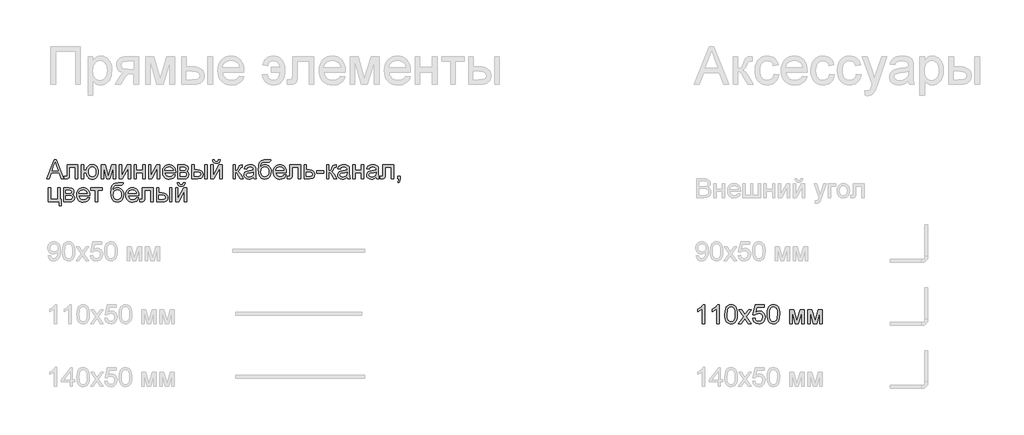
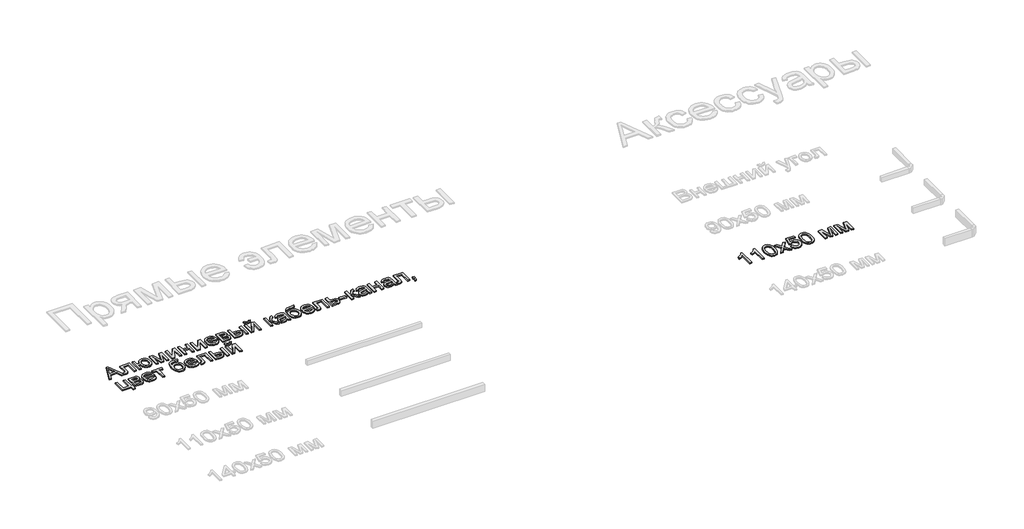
# One storey, part 89 of 168: 2 proxies.
"""IFC4 building model written with IfcOpenShell, lengths in millimetres."""

from ifc_helpers import new_model, si_unit, origin, origin_with_axes, place, context, project, spatial, polyline, outline, extrude, element, save

model = new_model("IFC4")

# Units and contexts
model_context = context("Model", 3, world=origin())
ifc_project = project(units=[si_unit("LENGTHUNIT", "METRE", prefix="MILLI")], contexts=[model_context])

# Site, building, storey
site = spatial("IfcSite", under=ifc_project)
building = spatial("IfcBuilding", under=site)
storey = spatial("IfcBuildingStorey", under=building, Name="Этаж 01", Elevation=0.0)

# Proxies
placement = place(None, origin())
element("IfcBuildingElementProxy", 1, Name="300 мм Arial 2", ObjectType="300 мм Arial 2", at=placement, inside=storey, context=model_context, shape_type="SweptSolid", body=[
    extrude(outline(polyline([(743.7217892, -6848.4056816), (864.0192016, -6547.0367511), (896.0985116, -6547.0367511), (1016.395924, -6848.4056816), (976.5910922, -6848.4056816), (942.083761, -6754.2278908), (817.9603758, -6754.2278908), (783.5266211, -6848.4056816), (743.7217892, -6848.4056816)]), holes=[polyline([(831.7927389, -6716.5567745), (928.3249744, -6716.5567745), (901.1752832, -6642.4653407), (880.0588566, -6584.7078674), (861.2968749, -6635.9906176), (831.7927389, -6716.5567745)])]), origin_with_axes(), (0.0, 0.0, 1.0), 20.0),
    extrude(outline(polyline([(1070.7688829, -6627.0878733), (1240.2889063, -6627.0878733), (1240.2889063, -6848.1849524), (1202.61779, -6848.1849524), (1202.61779, -6664.7589896), (1108.4399992, -6664.7589896), (1108.4399992, -6770.3411222), (1105.9016135, -6819.0486984), (1101.1467387, -6830.0759612), (1091.9588859, -6839.6133019), (1078.0161582, -6846.2075866), (1058.9966591, -6848.4056816), (1028.3888771, -6846.4926952), (1028.3888771, -6810.7345653), (1045.2378725, -6810.7345653), (1062.2708088, -6808.4169087), (1069.0766258, -6801.0592688), (1070.7688829, -6768.2074066), (1070.7688829, -6627.0878733)])), origin_with_axes(), (0.0, 0.0, 1.0), 20.0),
    extrude(outline(polyline([(1296.7955808, -6627.0878733), (1334.4666971, -6627.0878733), (1334.4666971, -6711.847885), (1376.8467029, -6711.847885), (1386.6231669, -6673.4410047), (1395.1465329, -6658.1003255), (1406.0933215, -6645.3348202), (1419.1554316, -6635.2916418), (1434.024762, -6628.1179429), (1469.1850837, -6622.3789837), (1498.735205, -6625.754301), (1521.3139624, -6635.880253), (1538.7331749, -6651.929105), (1552.8046612, -6673.0731227), (1562.1028786, -6700.8850015), (1565.2022845, -6736.937437), (1563.5996985, -6763.7928227), (1558.7919407, -6787.1901176), (1550.779011, -6807.1293217), (1539.5609094, -6823.6104351), (1525.5974884, -6836.5184946), (1509.3486005, -6845.7385371), (1490.8142458, -6851.2705626), (1469.9944241, -6853.1145711), (1450.5909481, -6851.3855257), (1433.2154216, -6846.1983896), (1417.8678446, -6837.5531627), (1404.5482172, -6825.4498451), (1393.587633, -6810.3298951), (1385.3171859, -6792.6347711), (1376.8467029, -6749.5190013), (1334.4666971, -6749.5190013), (1334.4666971, -6848.4056816), (1296.7955808, -6848.4056816), (1296.7955808, -6627.0878733)]), holes=[polyline([(1471.6131049, -6660.0501), (1447.5996076, -6664.9245365), (1429.5641928, -6679.5478458), (1418.2794126, -6702.9635348), (1414.5178192, -6734.2151103), (1418.3070038, -6770.6262307), (1429.6745574, -6795.8353445), (1447.3880755, -6810.5414272), (1470.2151533, -6815.4434548), (1493.1066104, -6810.9093092), (1511.454725, -6797.3068724), (1523.5120573, -6773.6060749), (1527.5311681, -6738.776847), (1524.0546833, -6704.3338952), (1513.6252287, -6679.7317868), (1496.1692281, -6664.9705217), (1471.6131049, -6660.0501)])]), origin_with_axes(), (0.0, 0.0, 1.0), 20.0),
    extrude(outline(polyline([(1612.2911798, -6627.0878733), (1677.1119874, -6627.0878733), (1727.0703623, -6804.2598421), (1780.9282864, -6627.0878733), (1843.0267672, -6627.0878733), (1843.0267672, -6848.4056816), (1805.3556509, -6848.4056816), (1805.3556509, -6670.2036431), (1751.2034212, -6848.4056816), (1701.7600811, -6848.4056816), (1649.9622961, -6661.6687808), (1649.9622961, -6848.4056816), (1612.2911798, -6848.4056816), (1612.2911798, -6627.0878733)])), origin_with_axes(), (0.0, 0.0, 1.0), 20.0),
    extrude(outline(polyline([(1899.5334417, -6627.0878733), (1937.204558, -6627.0878733), (1937.204558, -6795.8721327), (2029.763668, -6627.0878733), (2078.4712441, -6627.0878733), (2078.4712441, -6848.4056816), (2040.8001278, -6848.4056816), (2040.8001278, -6680.6514918), (1948.829629, -6848.4056816), (1899.5334417, -6848.4056816), (1899.5334417, -6627.0878733)])), origin_with_axes(), (0.0, 0.0, 1.0), 20.0),
    extrude(outline(polyline([(2134.9779186, -6627.0878733), (2172.6490349, -6627.0878733), (2172.6490349, -6711.847885), (2271.5357152, -6711.847885), (2271.5357152, -6627.0878733), (2309.2068315, -6627.0878733), (2309.2068315, -6848.4056816), (2271.5357152, -6848.4056816), (2271.5357152, -6749.5190013), (2172.6490349, -6749.5190013), (2172.6490349, -6848.4056816), (2134.9779186, -6848.4056816), (2134.9779186, -6627.0878733)])), origin_with_axes(), (0.0, 0.0, 1.0), 20.0),
    extrude(outline(polyline([(2365.713506, -6627.0878733), (2403.3846223, -6627.0878733), (2403.3846223, -6795.8721327), (2495.9437322, -6627.0878733), (2544.6513084, -6627.0878733), (2544.6513084, -6848.4056816), (2506.9801921, -6848.4056816), (2506.9801921, -6680.6514918), (2415.0096933, -6848.4056816), (2365.713506, -6848.4056816), (2365.713506, -6627.0878733)])), origin_with_axes(), (0.0, 0.0, 1.0), 20.0),
    extrude(outline(polyline([(2756.1098792, -6782.481228), (2793.0452316, -6787.1901176), (2779.7371004, -6815.0203905), (2758.5011122, -6835.8241173), (2729.8155136, -6848.7919577), (2694.1585513, -6853.1145711), (2670.784249, -6851.2498692), (2649.9575295, -6845.6557637), (2631.6783929, -6836.3322543), (2615.9468391, -6823.2793413), (2603.296297, -6806.860308), (2594.2601955, -6787.4384379), (2588.8385346, -6765.013731), (2587.0313143, -6739.5861874), (2588.8569287, -6713.2964203), (2594.3337719, -6690.1244531), (2603.4618439, -6670.0702859), (2616.2411447, -6653.1339185), (2631.9313118, -6639.6786346), (2649.7919826, -6630.0677174), (2669.8231573, -6624.3011672), (2692.0248357, -6622.3789837), (2713.5114435, -6624.2965686), (2732.9425106, -6630.0493233), (2750.3180371, -6639.6372478), (2765.6380229, -6653.0603421), (2778.1437115, -6669.9599213), (2787.0763462, -6689.9773003), (2792.435927, -6713.1124793), (2794.2224539, -6739.3654582), (2794.0017247, -6749.5190013), (2624.7024306, -6749.5190013), (2631.2231389, -6777.7171562), (2646.3706801, -6798.4473066), (2668.2320676, -6811.1944178), (2694.8943152, -6815.4434548), (2714.943884, -6813.4752861), (2731.8296676, -6807.5707801), (2745.551666, -6797.3620547), (2756.1098792, -6782.481228)]), holes=[polyline([(2624.7024306, -6711.847885), (2756.5513376, -6711.847885), (2751.456172, -6691.945469), (2741.4681758, -6677.7084358), (2719.5056207, -6664.464684), (2691.8776829, -6660.0501), (2666.4846282, -6663.5725701), (2645.4877633, -6674.1399805), (2630.8920451, -6690.6118968), (2624.7024306, -6711.847885)])]), origin_with_axes(), (0.0, 0.0, 1.0), 20.0),
    extrude(outline(polyline([(2831.8935702, -6627.0878733), (2914.8877484, -6627.0878733), (2941.5683901, -6628.3478691), (2960.3947512, -6632.1278566), (2974.2455083, -6639.2647673), (2985.999338, -6650.5955328), (2994.0283626, -6665.3567978), (2996.7047041, -6682.7852073), (2995.0860233, -6696.8291025), (2990.229981, -6708.9416172), (2982.118183, -6719.1779337), (2970.7322352, -6727.5932344), (2984.6749628, -6735.4199238), (2996.0425165, -6748.0106851), (3003.6024915, -6764.3722368), (3006.1224832, -6783.5112976), (2999.7397305, -6812.2244873), (2984.5645982, -6832.439603), (2960.541904, -6844.4141619), (2927.6164654, -6848.4056816), (2831.8935702, -6848.4056816), (2831.8935702, -6627.0878733)]), holes=[polyline([(2869.5646866, -6711.847885), (2906.7943445, -6711.847885), (2937.5124911, -6709.9348986), (2952.4485001, -6702.2829531), (2957.3873158, -6695.9553828), (2959.0335878, -6688.4505901), (2956.1457141, -6677.2117951), (2947.4820931, -6669.9829139), (2931.8287142, -6666.0649707), (2907.9715668, -6664.7589896), (2869.5646866, -6664.7589896), (2869.5646866, -6711.847885)]), polyline([(2869.5646866, -6810.7345653), (2915.7706651, -6810.7345653), (2940.9521877, -6809.033111), (2956.7527194, -6803.9287484), (2965.2323994, -6794.648925), (2968.4513669, -6780.4210889), (2966.8418831, -6770.9941127), (2962.0134319, -6762.2845065), (2954.6006097, -6755.4694925), (2945.238013, -6751.7262932), (2912.0918452, -6749.5190013), (2869.5646866, -6749.5190013), (2869.5646866, -6810.7345653)])]), origin_with_axes(), (0.0, 0.0, 1.0), 20.0),
    extrude(outline(polyline([(3260.4025182, -6627.0878733), (3298.0736345, -6627.0878733), (3298.0736345, -6848.4056816), (3260.4025182, -6848.4056816), (3260.4025182, -6627.0878733)])), origin_with_axes(), (0.0, 0.0, 1.0), 20.0),
    extrude(outline(polyline([(3053.2113785, -6627.0878733), (3090.8824948, -6627.0878733), (3090.8824948, -6707.1389954), (3137.4563554, -6707.1389954), (3177.7118428, -6711.857082), (3193.928541, -6717.7546902), (3207.5378755, -6726.0113418), (3218.3053217, -6736.3419281), (3225.9963546, -6748.4613405), (3230.6109744, -6762.3695792), (3232.149181, -6778.0666441), (3226.989636, -6805.0231973), (3211.5110011, -6827.7675016), (3199.649106, -6836.7967054), (3184.7016007, -6843.2461366), (3145.5497593, -6848.4056816), (3053.2113785, -6848.4056816), (3053.2113785, -6627.0878733)]), holes=[polyline([(3090.8824948, -6810.7345653), (3129.5836807, -6810.7345653), (3159.5844574, -6808.7571995), (3179.5420557, -6802.8251024), (3190.7440624, -6792.6991504), (3194.4780647, -6778.1402205), (3191.7097527, -6765.8345678), (3183.4048166, -6754.9636548), (3165.6453133, -6747.3484975), (3134.5132995, -6744.8101117), (3090.8824948, -6744.8101117), (3090.8824948, -6810.7345653)])]), origin_with_axes(), (0.0, 0.0, 1.0), 20.0),
    extrude(outline(polyline([(3354.580309, -6627.0878733), (3392.2514253, -6627.0878733), (3392.2514253, -6795.8721327), (3484.8105353, -6627.0878733), (3533.5181114, -6627.0878733), (3533.5181114, -6848.4056816), (3495.8469951, -6848.4056816), (3495.8469951, -6680.6514918), (3403.8764963, -6848.4056816), (3354.580309, -6848.4056816), (3354.580309, -6627.0878733)])), origin_with_axes(), (0.0, 0.0, 1.0), 20.0),
    extrude(outline(polyline([(3477.011437, -6547.0367511), (3505.2647742, -6547.0367511), (3499.1855242, -6571.160613), (3486.9810391, -6588.9385104), (3469.2031416, -6599.8921968), (3446.403655, -6603.5434256), (3421.6635908, -6599.9197879), (3402.4785448, -6589.048875), (3389.3635516, -6571.2985687), (3382.8336462, -6547.0367511), (3411.0869835, -6547.0367511), (3415.060109, -6559.4435714), (3421.6819849, -6568.2635422), (3430.9893994, -6573.5334518), (3443.0191406, -6575.2900883), (3456.5939863, -6573.5886341), (3466.4164355, -6568.4842714), (3473.0383114, -6559.7194829), (3477.011437, -6547.0367511)])), origin_with_axes(), (0.0, 0.0, 1.0), 20.0),
    extrude(outline(polyline([(3707.7470244, -6627.0878733), (3745.4181407, -6627.0878733), (3745.4181407, -6721.265664), (3760.7404258, -6719.5734069), (3770.6548455, -6714.4966353), (3779.4288311, -6701.2528835), (3791.3298137, -6675.0596854), (3808.5099028, -6641.0306009), (3823.666641, -6629.9573528), (3851.2210025, -6627.0878733), (3858.4314896, -6627.0878733), (3858.4314896, -6664.9797188), (3848.2779465, -6664.7589896), (3829.8838468, -6668.7321151), (3816.9344005, -6693.5273616), (3801.7408741, -6720.345959), (3780.4405066, -6733.4793463), (3792.3782774, -6738.7814455), (3804.2056835, -6748.1394438), (3827.529402, -6779.0231373), (3867.8492687, -6848.4056816), (3825.0278044, -6848.4056816), (3785.5172781, -6780.4946653), (3765.6516504, -6751.7630814), (3756.36263, -6746.5483542), (3745.4181407, -6744.8101117), (3745.4181407, -6848.4056816), (3707.7470244, -6848.4056816), (3707.7470244, -6627.0878733)])), origin_with_axes(), (0.0, 0.0, 1.0), 20.0),
    extrude(outline(polyline([(4032.6604025, -6820.1523443), (4014.6617759, -6835.584994), (3996.1297204, -6845.6833548), (3976.6411717, -6851.256767), (3955.7730655, -6853.1145711), (3924.2915638, -6848.6448049), (3901.0690128, -6835.2355061), (3886.7492062, -6814.8732377), (3881.9759373, -6789.5445623), (3883.7785591, -6773.9279716), (3889.1864244, -6759.7461207), (3897.5281486, -6747.6060149), (3908.1323471, -6738.1146594), (3934.5094862, -6725.7538244), (3967.103831, -6720.0884417), (4005.6210759, -6714.1287533), (4032.4396733, -6707.1389954), (4032.6604025, -6698.7512859), (4030.0668344, -6681.9390788), (4022.2861302, -6670.9394071), (4004.8853119, -6662.7724268), (3980.6418884, -6660.0501), (3958.2010867, -6661.8619189), (3942.5293137, -6667.2973753), (3931.8423417, -6677.3497509), (3924.3559431, -6693.0123268), (3886.6848268, -6688.3034373), (3893.2239293, -6667.7020455), (3902.9819992, -6651.5152378), (3916.8695445, -6639.1360086), (3935.7970732, -6629.9573528), (3958.9460477, -6624.273576), (3985.4979307, -6622.3789837), (4010.9645618, -6624.0528468), (4031.1520863, -6629.074436), (4046.3732039, -6636.625214), (4056.9406142, -6645.8866432), (4063.9487662, -6657.3369703), (4068.4921088, -6671.4544419), (4070.3315188, -6704.4166687), (4070.3315188, -6751.2848348), (4072.2445052, -6816.7310418), (4079.7492979, -6848.4056816), (4042.0781816, -6848.4056816), (4032.6604025, -6820.1523443)]), holes=[polyline([(4032.6604025, -6744.8101117), (3971.8862969, -6756.3616064), (3939.4758931, -6762.4684475), (3924.7974015, -6772.4012614), (3919.6470536, -6786.895812), (3922.4521538, -6798.0978187), (3930.8674544, -6807.2764745), (3944.7090145, -6813.4017097), (3963.792893, -6815.4434548), (3984.0264027, -6813.1901776), (4001.9054677, -6806.4303459), (4016.4000183, -6796.4699409), (4026.479985, -6784.6149436), (4030.9497512, -6772.4012614), (4032.4396733, -6755.4786896), (4032.6604025, -6744.8101117)])]), origin_with_axes(), (0.0, 0.0, 1.0), 20.0),
    extrude(outline(polyline([(4277.5226585, -6542.3278616), (4310.4848853, -6542.3278616), (4306.9164299, -6560.2345177), (4300.7728006, -6571.721633), (4292.2563324, -6578.5182529), (4281.5693604, -6582.3534227), (4235.4369582, -6584.7078674), (4197.1312455, -6586.8783712), (4173.3016893, -6593.3898825), (4159.0462619, -6604.6838598), (4149.462936, -6621.2017613), (4143.8251444, -6643.072346), (4141.4063203, -6670.4243723), (4156.5538614, -6649.3815222), (4174.0374532, -6634.3719368), (4193.8754898, -6625.377222), (4216.0863653, -6622.3789837), (4236.6095821, -6624.2850723), (4255.2841919, -6630.0033381), (4272.1101946, -6639.533781), (4287.0875904, -6652.8764011), (4299.3840461, -6669.4701784), (4308.1672287, -6688.7540927), (4313.4371383, -6710.7281441), (4315.1937748, -6735.3923327), (4311.7080929, -6771.3527977), (4301.2510472, -6800.2131402), (4286.0115355, -6822.6447449), (4268.1784558, -6839.3189963), (4245.5905013, -6849.6656774), (4216.0863653, -6853.1145711), (4182.0848719, -6848.672396), (4156.5998467, -6835.3458707), (4137.847062, -6815.0939669), (4124.0422901, -6789.8756561), (4115.544216, -6751.9010372), (4112.7115247, -6693.3802088), (4114.4980516, -6653.7156319), (4119.8576324, -6621.1005938), (4128.7902671, -6595.5350944), (4141.2959557, -6577.0191337), (4157.5080554, -6563.9018413), (4177.5599234, -6554.5323468), (4201.4515597, -6548.91065), (4229.1829643, -6547.0367511), (4271.1215118, -6546.1906225), (4277.5226585, -6542.3278616)]), holes=[polyline([(4277.5226585, -6734.2151103), (4273.4391683, -6704.5730185), (4261.1886979, -6680.8354328), (4241.5070112, -6665.2464332), (4215.1298721, -6660.0501), (4187.630693, -6665.5407388), (4176.5436493, -6672.4040373), (4167.2316363, -6682.0126552), (4154.5948898, -6707.6632273), (4150.382641, -6740.6898334), (4155.0363482, -6772.704764), (4168.9974699, -6796.2032265), (4189.7828026, -6810.6333977), (4214.9091429, -6815.4434548), (4240.1642419, -6809.8792396), (4260.1586283, -6793.1865941), (4273.1816509, -6767.3152928), (4277.5226585, -6734.2151103)])]), origin_with_axes(), (0.0, 0.0, 1.0), 20.0),
    extrude(outline(polyline([(4517.2345665, -6782.481228), (4554.1699189, -6787.1901176), (4540.8617877, -6815.0203905), (4519.6257995, -6835.8241173), (4490.9402009, -6848.7919577), (4455.2832386, -6853.1145711), (4431.9089363, -6851.2498692), (4411.0822168, -6845.6557637), (4392.8030802, -6836.3322543), (4377.0715264, -6823.2793413), (4364.4209843, -6806.860308), (4355.3848828, -6787.4384379), (4349.9632219, -6765.013731), (4348.1560016, -6739.5861874), (4349.981616, -6713.2964203), (4355.4584592, -6690.1244531), (4364.5865312, -6670.0702859), (4377.365832, -6653.1339185), (4393.0559991, -6639.6786346), (4410.9166699, -6630.0677174), (4430.9478446, -6624.3011672), (4453.149523, -6622.3789837), (4474.6361308, -6624.2965686), (4494.0671979, -6630.0493233), (4511.4427244, -6639.6372478), (4526.7627102, -6653.0603421), (4539.2683988, -6669.9599213), (4548.2010335, -6689.9773003), (4553.5606143, -6713.1124793), (4555.3471412, -6739.3654582), (4555.1264121, -6749.5190013), (4385.8271179, -6749.5190013), (4392.3478262, -6777.7171562), (4407.4953674, -6798.4473066), (4429.356755, -6811.1944178), (4456.0190026, -6815.4434548), (4476.0685713, -6813.4752861), (4492.9543549, -6807.5707801), (4506.6763533, -6797.3620547), (4517.2345665, -6782.481228)]), holes=[polyline([(4385.8271179, -6711.847885), (4517.6760249, -6711.847885), (4512.5808593, -6691.945469), (4502.5928631, -6677.7084358), (4480.630308, -6664.464684), (4453.0023702, -6660.0501), (4427.6093155, -6663.5725701), (4406.6124506, -6674.1399805), (4392.0167324, -6690.6118968), (4385.8271179, -6711.847885)])]), origin_with_axes(), (0.0, 0.0, 1.0), 20.0),
    extrude(outline(polyline([(4611.8538157, -6627.0878733), (4781.3738391, -6627.0878733), (4781.3738391, -6848.1849524), (4743.7027228, -6848.1849524), (4743.7027228, -6664.7589896), (4649.524932, -6664.7589896), (4649.524932, -6770.3411222), (4646.9865462, -6819.0486984), (4642.2316715, -6830.0759612), (4633.0438186, -6839.6133019), (4619.101091, -6846.2075866), (4600.0815919, -6848.4056816), (4569.4738099, -6846.4926952), (4569.4738099, -6810.7345653), (4586.3228052, -6810.7345653), (4603.3557416, -6808.4169087), (4610.1615585, -6801.0592688), (4611.8538157, -6768.2074066), (4611.8538157, -6627.0878733)])), origin_with_axes(), (0.0, 0.0, 1.0), 20.0),
    extrude(outline(polyline([(4837.8805135, -6627.0878733), (4875.5516299, -6627.0878733), (4875.5516299, -6707.1389954), (4918.9617053, -6707.1389954), (4956.5960334, -6711.857082), (4971.7435745, -6717.7546902), (4984.4447004, -6726.0113418), (4994.4878789, -6736.3419281), (5001.6615778, -6748.4613405), (5007.4005369, -6778.0666441), (5002.5169034, -6805.0231973), (4987.866003, -6827.7675016), (4976.6341058, -6836.7967054), (4962.4729483, -6843.2461366), (4925.362852, -6848.4056816), (4837.8805135, -6848.4056816), (4837.8805135, -6627.0878733)]), holes=[polyline([(4875.5516299, -6810.7345653), (4910.7211486, -6810.7345653), (4938.0087956, -6808.7571995), (4956.154575, -6802.8251024), (4966.3357092, -6792.6991504), (4969.7294206, -6778.1402205), (4967.218626, -6765.8345678), (4959.6862421, -6754.9636548), (4943.5454196, -6747.3484975), (4915.2093089, -6744.8101117), (4875.5516299, -6744.8101117), (4875.5516299, -6810.7345653)])]), origin_with_axes(), (0.0, 0.0, 1.0), 20.0),
    extrude(outline(polyline([(5035.6538742, -6758.9367803), (5035.6538742, -6721.265664), (5153.3761126, -6721.265664), (5153.3761126, -6758.9367803), (5035.6538742, -6758.9367803)])), origin_with_axes(), (0.0, 0.0, 1.0), 20.0),
    extrude(outline(polyline([(5195.7561185, -6627.0878733), (5233.4272348, -6627.0878733), (5233.4272348, -6721.265664), (5248.7495199, -6719.5734069), (5258.6639396, -6714.4966353), (5267.4379252, -6701.2528835), (5279.3389078, -6675.0596854), (5296.5189969, -6641.0306009), (5311.6757351, -6629.9573528), (5339.2300966, -6627.0878733), (5346.4405837, -6627.0878733), (5346.4405837, -6664.9797188), (5336.2870406, -6664.7589896), (5317.8929409, -6668.7321151), (5304.9434946, -6693.5273616), (5289.7499682, -6720.345959), (5268.4496007, -6733.4793463), (5280.3873714, -6738.7814455), (5292.2147776, -6748.1394438), (5315.5384961, -6779.0231373), (5355.8583628, -6848.4056816), (5313.0368985, -6848.4056816), (5273.5263722, -6780.4946653), (5253.6607445, -6751.7630814), (5244.3717241, -6746.5483542), (5233.4272348, -6744.8101117), (5233.4272348, -6848.4056816), (5195.7561185, -6848.4056816), (5195.7561185, -6627.0878733)])), origin_with_axes(), (0.0, 0.0, 1.0), 20.0),
    extrude(outline(polyline([(5520.6694966, -6820.1523443), (5502.67087, -6835.584994), (5484.1388145, -6845.6833548), (5464.6502658, -6851.256767), (5443.7821596, -6853.1145711), (5412.3006579, -6848.6448049), (5389.0781069, -6835.2355061), (5374.7583003, -6814.8732377), (5369.9850314, -6789.5445623), (5371.7876531, -6773.9279716), (5377.1955185, -6759.7461207), (5385.5372427, -6747.6060149), (5396.1414412, -6738.1146594), (5422.5185803, -6725.7538244), (5455.1129251, -6720.0884417), (5493.6301699, -6714.1287533), (5520.4487674, -6707.1389954), (5520.6694966, -6698.7512859), (5518.0759285, -6681.9390788), (5510.2952243, -6670.9394071), (5492.894406, -6662.7724268), (5468.6509825, -6660.0501), (5446.2101808, -6661.8619189), (5430.5384078, -6667.2973753), (5419.8514358, -6677.3497509), (5412.3650372, -6693.0123268), (5374.6939209, -6688.3034373), (5381.2330234, -6667.7020455), (5390.9910933, -6651.5152378), (5404.8786386, -6639.1360086), (5423.8061673, -6629.9573528), (5446.9551418, -6624.273576), (5473.5070248, -6622.3789837), (5498.9736559, -6624.0528468), (5519.1611804, -6629.074436), (5534.382298, -6636.625214), (5544.9497083, -6645.8866432), (5551.9578603, -6657.3369703), (5556.5012029, -6671.4544419), (5558.3406129, -6704.4166687), (5558.3406129, -6751.2848348), (5560.2535993, -6816.7310418), (5567.758392, -6848.4056816), (5530.0872757, -6848.4056816), (5520.6694966, -6820.1523443)]), holes=[polyline([(5520.6694966, -6744.8101117), (5459.895391, -6756.3616064), (5427.4849872, -6762.4684475), (5412.8064956, -6772.4012614), (5407.6561477, -6786.895812), (5410.4612479, -6798.0978187), (5418.8765485, -6807.2764745), (5432.7181086, -6813.4017097), (5451.8019871, -6815.4434548), (5472.0354968, -6813.1901776), (5489.9145618, -6806.4303459), (5504.4091124, -6796.4699409), (5514.4890791, -6784.6149436), (5518.9588453, -6772.4012614), (5520.4487674, -6755.4786896), (5520.6694966, -6744.8101117)])]), origin_with_axes(), (0.0, 0.0, 1.0), 20.0),
    extrude(outline(polyline([(5610.1383978, -6627.0878733), (5647.8095141, -6627.0878733), (5647.8095141, -6711.847885), (5746.6961944, -6711.847885), (5746.6961944, -6627.0878733), (5784.3673107, -6627.0878733), (5784.3673107, -6848.4056816), (5746.6961944, -6848.4056816), (5746.6961944, -6749.5190013), (5647.8095141, -6749.5190013), (5647.8095141, -6848.4056816), (5610.1383978, -6848.4056816), (5610.1383978, -6627.0878733)])), origin_with_axes(), (0.0, 0.0, 1.0), 20.0),
    extrude(outline(polyline([(5982.1406713, -6820.1523443), (5964.1420447, -6835.584994), (5945.6099892, -6845.6833548), (5926.1214405, -6851.256767), (5905.2533344, -6853.1145711), (5873.7718326, -6848.6448049), (5850.5492817, -6835.2355061), (5836.229475, -6814.8732377), (5831.4562061, -6789.5445623), (5833.2588279, -6773.9279716), (5838.6666932, -6759.7461207), (5847.0084175, -6747.6060149), (5857.612616, -6738.1146594), (5883.989755, -6725.7538244), (5916.5840998, -6720.0884417), (5955.1013447, -6714.1287533), (5981.9199421, -6707.1389954), (5982.1406713, -6698.7512859), (5979.5471033, -6681.9390788), (5971.7663991, -6670.9394071), (5954.3655807, -6662.7724268), (5930.1221572, -6660.0501), (5907.6813555, -6661.8619189), (5892.0095825, -6667.2973753), (5881.3226106, -6677.3497509), (5873.836212, -6693.0123268), (5836.1650957, -6688.3034373), (5842.7041981, -6667.7020455), (5852.462268, -6651.5152378), (5866.3498134, -6639.1360086), (5885.277342, -6629.9573528), (5908.4263166, -6624.273576), (5934.9781996, -6622.3789837), (5960.4448307, -6624.0528468), (5980.6323552, -6629.074436), (5995.8534727, -6636.625214), (6006.420883, -6645.8866432), (6013.429035, -6657.3369703), (6017.9723777, -6671.4544419), (6019.8117876, -6704.4166687), (6019.8117876, -6751.2848348), (6021.724774, -6816.7310418), (6029.2295667, -6848.4056816), (5991.5584504, -6848.4056816), (5982.1406713, -6820.1523443)]), holes=[polyline([(5982.1406713, -6744.8101117), (5921.3665657, -6756.3616064), (5888.956162, -6762.4684475), (5874.2776704, -6772.4012614), (5869.1273224, -6786.895812), (5871.9324226, -6798.0978187), (5880.3477233, -6807.2764745), (5894.1892833, -6813.4017097), (5913.2731618, -6815.4434548), (5933.5066716, -6813.1901776), (5951.3857365, -6806.4303459), (5965.8802872, -6796.4699409), (5975.9602538, -6784.6149436), (5980.4300201, -6772.4012614), (5981.9199421, -6755.4786896), (5982.1406713, -6744.8101117)])]), origin_with_axes(), (0.0, 0.0, 1.0), 20.0),
    extrude(outline(polyline([(6090.4451307, -6627.0878733), (6259.9651541, -6627.0878733), (6259.9651541, -6848.1849524), (6222.2940378, -6848.1849524), (6222.2940378, -6664.7589896), (6128.116247, -6664.7589896), (6128.116247, -6770.3411222), (6125.5778613, -6819.0486984), (6120.8229865, -6830.0759612), (6111.6351336, -6839.6133019), (6097.692406, -6846.2075866), (6078.6729069, -6848.4056816), (6048.0651249, -6846.4926952), (6048.0651249, -6810.7345653), (6064.9141203, -6810.7345653), (6081.9470566, -6808.4169087), (6088.7528735, -6801.0592688), (6090.4451307, -6768.2074066), (6090.4451307, -6627.0878733)])), origin_with_axes(), (0.0, 0.0, 1.0), 20.0),
    extrude(outline(polyline([(6325.8896076, -6848.4056816), (6325.8896076, -6810.7345653), (6363.5607239, -6810.7345653), (6363.5607239, -6848.4056816), (6361.8684668, -6869.9543694), (6356.7916952, -6886.9229265), (6348.0361037, -6899.936752), (6335.3073867, -6909.6212456), (6325.8896076, -6895.494577), (6334.0565879, -6888.6703659), (6339.7219707, -6879.2341928), (6344.6515894, -6848.4056816), (6325.8896076, -6848.4056816)])), origin_with_axes(), (0.0, 0.0, 1.0), 20.0),
    extrude(outline(polyline([(774.108842, -6993.0123268), (811.7799583, -6993.0123268), (811.7799583, -7176.6590188), (920.0844177, -7176.6590188), (920.0844177, -6993.0123268), (957.755534, -6993.0123268), (957.755534, -7176.6590188), (981.2999817, -7176.6590188), (981.2999817, -7275.5456991), (943.6288654, -7275.5456991), (943.6288654, -7214.3301351), (774.108842, -7214.3301351), (774.108842, -6993.0123268)])), origin_with_axes(), (0.0, 0.0, 1.0), 20.0),
    extrude(outline(polyline([(1014.2622085, -6993.0123268), (1097.2563866, -6993.0123268), (1123.9370283, -6994.2723226), (1142.7633894, -6998.0523101), (1156.6141465, -7005.1892208), (1168.3679763, -7016.5199863), (1176.3970008, -7031.2812514), (1179.0733423, -7048.7096609), (1177.4546615, -7062.753556), (1172.5986192, -7074.8660707), (1164.4868212, -7085.1023872), (1153.1008735, -7093.5176879), (1167.0436011, -7101.3443773), (1178.4111547, -7113.9351386), (1185.9711297, -7130.2966904), (1188.4911214, -7149.4357512), (1182.1083688, -7178.1489409), (1166.9332365, -7198.3640565), (1142.9105422, -7210.3386155), (1109.9851036, -7214.3301351), (1014.2622085, -7214.3301351), (1014.2622085, -6993.0123268)]), holes=[polyline([(1051.9333248, -7077.7723385), (1089.1629827, -7077.7723385), (1119.8811293, -7075.8593521), (1134.8171383, -7068.2074066), (1139.7559541, -7061.8798363), (1141.402226, -7054.3750436), (1138.5143523, -7043.1362486), (1129.8507314, -7035.9073674), (1114.1973525, -7031.9894242), (1090.3402051, -7030.6834431), (1051.9333248, -7030.6834431), (1051.9333248, -7077.7723385)]), polyline([(1051.9333248, -7176.6590188), (1098.1393034, -7176.6590188), (1123.3208259, -7174.9575646), (1139.1213576, -7169.8532019), (1147.6010376, -7160.5733786), (1150.8200051, -7146.3455424), (1149.2105214, -7136.9185663), (1144.3820702, -7128.20896), (1136.969248, -7121.3939461), (1127.6066512, -7117.6507468), (1094.4604834, -7115.4434548), (1051.9333248, -7115.4434548), (1051.9333248, -7176.6590188)])]), origin_with_axes(), (0.0, 0.0, 1.0), 20.0),
    extrude(outline(polyline([(1390.5319131, -7148.4056816), (1427.4672655, -7153.1145711), (1414.1591343, -7180.944844), (1392.9231461, -7201.7485709), (1364.2375475, -7214.7164112), (1328.5805852, -7219.0390246), (1305.2062829, -7217.1743228), (1284.3795634, -7211.5802172), (1266.1004268, -7202.2567079), (1250.368873, -7189.2037948), (1237.7183309, -7172.7847615), (1228.6822294, -7153.3628915), (1223.2605685, -7130.9381846), (1221.4533482, -7105.5106409), (1223.2789626, -7079.2208739), (1228.7558058, -7056.0489067), (1237.8838778, -7035.9947394), (1250.6631786, -7019.0583721), (1266.3533457, -7005.6030881), (1284.2140165, -6995.992171), (1304.2451912, -6990.2256207), (1326.4468696, -6988.3034373), (1347.9334774, -6990.2210222), (1367.3645445, -6995.9737769), (1384.740071, -7005.5617014), (1400.0600568, -7018.9847957), (1412.5657454, -7035.8843748), (1421.4983801, -7055.9017539), (1426.8579609, -7079.0369329), (1428.6444878, -7105.2899117), (1428.4237586, -7115.4434548), (1259.1244645, -7115.4434548), (1265.6451728, -7143.6416097), (1280.792714, -7164.3717602), (1302.6541015, -7177.1188713), (1329.3163491, -7181.3679083), (1349.3659179, -7179.3997397), (1366.2517015, -7173.4952336), (1379.9736999, -7163.2865083), (1390.5319131, -7148.4056816)]), holes=[polyline([(1259.1244645, -7077.7723385), (1390.9733715, -7077.7723385), (1385.8782059, -7057.8699226), (1375.8902097, -7043.6328893), (1353.9276546, -7030.3891375), (1326.2997168, -7025.9745536), (1300.9066621, -7029.4970237), (1279.9097972, -7040.064434), (1265.314079, -7056.5363503), (1259.1244645, -7077.7723385)])]), origin_with_axes(), (0.0, 0.0, 1.0), 20.0),
    extrude(outline(polyline([(1447.480046, -6993.0123268), (1626.4178484, -6993.0123268), (1626.4178484, -7030.6834431), (1555.7845054, -7030.6834431), (1555.7845054, -7214.3301351), (1518.1133891, -7214.3301351), (1518.1133891, -7030.6834431), (1447.480046, -7030.6834431), (1447.480046, -6993.0123268)])), origin_with_axes(), (0.0, 0.0, 1.0), 20.0),
    extrude(outline(polyline([(1932.4956684, -6908.2523151), (1965.4578952, -6908.2523151), (1961.8894399, -6926.1589712), (1955.7458105, -6937.6460865), (1947.2293423, -6944.4427064), (1936.5423704, -6948.2778762), (1890.4099682, -6950.632321), (1852.1042554, -6952.8028247), (1828.2746992, -6959.314336), (1814.0192719, -6970.6083133), (1804.4359459, -6987.1262149), (1798.7981543, -7008.9967995), (1796.3793302, -7036.3488258), (1811.5268714, -7015.3059757), (1829.0104632, -7000.2963903), (1848.8484998, -6991.3016755), (1871.0593752, -6988.3034373), (1891.582592, -6990.2095259), (1910.2572018, -6995.9277916), (1927.0832046, -7005.4582346), (1942.0606003, -7018.8008547), (1954.357056, -7035.3946319), (1963.1402386, -7054.6785462), (1968.4101482, -7076.6525977), (1970.1667847, -7101.3167862), (1966.6811028, -7137.2772512), (1956.2240571, -7166.1375937), (1940.9845455, -7188.5691984), (1923.1514658, -7205.2434498), (1900.5635113, -7215.5901309), (1871.0593752, -7219.0390246), (1837.0578818, -7214.5968496), (1811.5728566, -7201.2703243), (1792.8200719, -7181.0184204), (1779.0153, -7155.8001097), (1770.517226, -7117.8254907), (1767.6845346, -7059.3046623), (1769.4710615, -7019.6400855), (1774.8306424, -6987.0250473), (1783.763277, -6961.4595479), (1796.2689656, -6942.9435873), (1812.4810653, -6929.8262949), (1832.5329333, -6920.4568003), (1856.4245696, -6914.8351036), (1884.1559743, -6912.9612047), (1926.0945217, -6912.1150761), (1932.4956684, -6908.2523151)]), holes=[polyline([(1932.4956684, -7100.1395638), (1928.4121783, -7070.497472), (1916.1617079, -7046.7598863), (1896.4800211, -7031.1708868), (1870.1028821, -7025.9745536), (1842.6037029, -7031.4651924), (1831.5166593, -7038.3284908), (1822.2046463, -7047.9371087), (1809.5678997, -7073.5876808), (1805.3556509, -7106.6142869), (1810.0093581, -7138.6292175), (1823.9704799, -7162.12768), (1844.7558126, -7176.5578512), (1869.8821529, -7181.3679083), (1895.1372518, -7175.8036932), (1915.1316383, -7159.1110476), (1928.1546609, -7133.2397463), (1932.4956684, -7100.1395638)])]), origin_with_axes(), (0.0, 0.0, 1.0), 20.0),
    extrude(outline(polyline([(2172.2075765, -7148.4056816), (2209.1429288, -7153.1145711), (2195.8347976, -7180.944844), (2174.5988095, -7201.7485709), (2145.9132109, -7214.7164112), (2110.2562485, -7219.0390246), (2086.8819462, -7217.1743228), (2066.0552268, -7211.5802172), (2047.7760902, -7202.2567079), (2032.0445363, -7189.2037948), (2019.3939942, -7172.7847615), (2010.3578927, -7153.3628915), (2004.9362318, -7130.9381846), (2003.1290115, -7105.5106409), (2004.9546259, -7079.2208739), (2010.4314691, -7056.0489067), (2019.5595411, -7035.9947394), (2032.3388419, -7019.0583721), (2048.029009, -7005.6030881), (2065.8896799, -6995.992171), (2085.9208545, -6990.2256207), (2108.1225329, -6988.3034373), (2129.6091407, -6990.2210222), (2149.0402078, -6995.9737769), (2166.4157343, -7005.5617014), (2181.7357202, -7018.9847957), (2194.2414087, -7035.8843748), (2203.1740434, -7055.9017539), (2208.5336243, -7079.0369329), (2210.3201512, -7105.2899117), (2210.099422, -7115.4434548), (2040.8001278, -7115.4434548), (2047.3208362, -7143.6416097), (2062.4683773, -7164.3717602), (2084.3297649, -7177.1188713), (2110.9920125, -7181.3679083), (2131.0415812, -7179.3997397), (2147.9273648, -7173.4952336), (2161.6493632, -7163.2865083), (2172.2075765, -7148.4056816)]), holes=[polyline([(2040.8001278, -7077.7723385), (2172.6490349, -7077.7723385), (2167.5538693, -7057.8699226), (2157.5658731, -7043.6328893), (2135.603318, -7030.3891375), (2107.9753801, -7025.9745536), (2082.5823254, -7029.4970237), (2061.5854605, -7040.064434), (2046.9897424, -7056.5363503), (2040.8001278, -7077.7723385)])]), origin_with_axes(), (0.0, 0.0, 1.0), 20.0),
    extrude(outline(polyline([(2266.8268257, -6993.0123268), (2436.346849, -6993.0123268), (2436.346849, -7214.1094059), (2398.6757327, -7214.1094059), (2398.6757327, -7030.6834431), (2304.497942, -7030.6834431), (2304.497942, -7136.2655757), (2301.9595562, -7184.9731519), (2297.2046814, -7196.0004147), (2288.0168286, -7205.5377554), (2274.074101, -7212.1320402), (2255.0546018, -7214.3301351), (2224.4468198, -7212.4171487), (2224.4468198, -7176.6590188), (2241.2958152, -7176.6590188), (2258.3287516, -7174.3413622), (2265.1345685, -7166.9837223), (2266.8268257, -7134.1318602), (2266.8268257, -6993.0123268)])), origin_with_axes(), (0.0, 0.0, 1.0), 20.0),
    extrude(outline(polyline([(2700.0446632, -6993.0123268), (2737.7157795, -6993.0123268), (2737.7157795, -7214.3301351), (2700.0446632, -7214.3301351), (2700.0446632, -6993.0123268)])), origin_with_axes(), (0.0, 0.0, 1.0), 20.0),
    extrude(outline(polyline([(2492.8535235, -6993.0123268), (2530.5246398, -6993.0123268), (2530.5246398, -7073.063449), (2577.0985004, -7073.063449), (2617.3539877, -7077.7815355), (2633.5706859, -7083.6791438), (2647.1800205, -7091.9357953), (2657.9474666, -7102.2663816), (2665.6384996, -7114.3857941), (2670.2531194, -7128.2940327), (2671.7913259, -7143.9910976), (2666.631781, -7170.9476508), (2651.153146, -7193.6919552), (2639.2912509, -7202.7211589), (2624.3437456, -7209.1705901), (2585.1919043, -7214.3301351), (2492.8535235, -7214.3301351), (2492.8535235, -6993.0123268)]), holes=[polyline([(2530.5246398, -7176.6590188), (2569.2258257, -7176.6590188), (2599.2266024, -7174.6816531), (2619.1842006, -7168.7495559), (2630.3862074, -7158.623604), (2634.1202096, -7144.064674), (2631.3518976, -7131.7590213), (2623.0469616, -7120.8881083), (2605.2874583, -7113.272951), (2574.1554444, -7110.7345653), (2530.5246398, -7110.7345653), (2530.5246398, -7176.6590188)])]), origin_with_axes(), (0.0, 0.0, 1.0), 20.0),
    extrude(outline(polyline([(2794.2224539, -6993.0123268), (2831.8935702, -6993.0123268), (2831.8935702, -7161.7965862), (2924.4526802, -6993.0123268), (2973.1602564, -6993.0123268), (2973.1602564, -7214.3301351), (2935.4891401, -7214.3301351), (2935.4891401, -7046.5759453), (2843.5186413, -7214.3301351), (2794.2224539, -7214.3301351), (2794.2224539, -6993.0123268)])), origin_with_axes(), (0.0, 0.0, 1.0), 20.0),
    extrude(outline(polyline([(2916.6535819, -6912.9612047), (2944.9069192, -6912.9612047), (2938.8276692, -6937.0850665), (2926.623184, -6954.8629639), (2908.8452866, -6965.8166503), (2886.0457999, -6969.4678791), (2861.3057358, -6965.8442415), (2842.1206897, -6954.9733285), (2829.0056966, -6937.2230222), (2822.4757912, -6912.9612047), (2850.7291284, -6912.9612047), (2854.7022539, -6925.3680249), (2861.3241299, -6934.1879958), (2870.6315443, -6939.4579054), (2882.6612856, -6941.2145419), (2896.2361312, -6939.5130877), (2906.0585805, -6934.408725), (2912.6804564, -6925.6439364), (2916.6535819, -6912.9612047)])), origin_with_axes(), (0.0, 0.0, 1.0), 20.0),
])
element("IfcBuildingElementProxy", 2, Name="300 мм Arial 2", ObjectType="300 мм Arial 2", at=placement, inside=storey, context=model_context, shape_type="SweptSolid", body=[
    extrude(outline(polyline([(11205.9577491, -9148.4056816), (11168.2866328, -9148.4056816), (11168.2866328, -8913.5498158), (11132.6020793, -8938.9704617), (11092.9444002, -8957.9899609), (11092.9444002, -8922.3789837), (11122.5313096, -8906.2841464), (11148.1634877, -8887.1358886), (11168.3694062, -8866.7736202), (11181.6775374, -8847.0367511), (11205.9577491, -8847.0367511), (11205.9577491, -9148.4056816)])), origin_with_axes(), (0.0, 0.0, 1.0), 20.0),
    extrude(outline(polyline([(11436.6933365, -9148.4056816), (11399.0222202, -9148.4056816), (11399.0222202, -8913.5498158), (11363.3376666, -8938.9704617), (11323.6799876, -8957.9899609), (11323.6799876, -8922.3789837), (11353.266897, -8906.2841464), (11378.899075, -8887.1358886), (11399.1049936, -8866.7736202), (11412.4131248, -8847.0367511), (11436.6933365, -8847.0367511), (11436.6933365, -9148.4056816)])), origin_with_axes(), (0.0, 0.0, 1.0), 20.0),
    extrude(outline(polyline([(11526.1622377, -9000.1492375), (11528.9305497, -8951.9107109), (11537.2354858, -8913.4394512), (11550.9942724, -8884.1468474), (11570.1241361, -8863.4442881), (11594.7630327, -8851.1386354), (11625.048918, -8847.0367511), (11648.2622719, -8849.4647723), (11669.0476046, -8856.7488358), (11686.4300289, -8868.6038331), (11699.4346574, -8884.7446556), (11709.2571067, -8905.0333477), (11717.0929932, -8929.3319534), (11722.224947, -8960.1880558), (11723.9355983, -9000.1492375), (11721.1948774, -9048.1118526), (11712.9727148, -9086.4911418), (11699.2967017, -9115.8113368), (11680.1944291, -9136.5966695), (11655.5003502, -9148.9850957), (11625.048918, -9153.1145711), (11604.3003735, -9151.3211464), (11585.9062737, -9145.9408722), (11569.8666187, -9136.9737486), (11556.1814085, -9124.4197755), (11543.0480213, -9101.7260549), (11533.6670304, -9073.4497251), (11528.0384359, -9039.5907859), (11526.1622377, -9000.1492375)]), holes=[polyline([(11563.833354, -9000.0756611), (11568.2479379, -9059.3322535), (11573.7661679, -9079.6002522), (11581.4916898, -9093.6280525), (11601.2101647, -9109.9896042), (11625.048918, -9115.4434548), (11648.8876713, -9109.9712101), (11668.6061462, -9093.5544761), (11676.3316681, -9079.5036831), (11681.8498981, -9059.240283), (11686.264482, -9000.0756611), (11681.9970509, -8942.152641), (11676.6627619, -8921.9513209), (11669.1947574, -8907.5901275), (11649.5130707, -8890.4284325), (11624.6074596, -8884.7078674), (11601.0262237, -8889.7478508), (11582.080301, -8904.8678008), (11574.0972617, -8920.5027856), (11568.3950907, -8941.5824239), (11563.833354, -9000.0756611)])]), origin_with_axes(), (0.0, 0.0, 1.0), 20.0),
    extrude(outline(polyline([(11742.7711565, -9148.4056816), (11823.263737, -9037.1581662), (11747.480046, -8927.0878733), (11792.8031078, -8927.0878733), (11829.3705781, -8980.0628806), (11846.4403027, -9005.0788562), (11861.2291589, -8984.6246173), (11902.8734008, -8927.0878733), (11948.1964626, -8927.0878733), (11868.5867988, -9037.1581662), (11945.2534066, -9148.4056816), (11899.9303448, -9148.4056816), (11853.7979426, -9081.5247348), (11845.3366567, -9069.3110526), (11788.0942183, -9148.4056816), (11742.7711565, -9148.4056816)])), origin_with_axes(), (0.0, 0.0, 1.0), 20.0),
    extrude(outline(polyline([(11968.7978543, -9068.3545594), (12006.4689706, -9063.6456699), (12013.3851521, -9086.2612155), (12025.4516816, -9102.4572204), (12042.6133766, -9112.1968962), (12064.815055, -9115.4434548), (12091.8175935, -9110.9277033), (12112.0511032, -9097.3804488), (12124.6878498, -9076.3651899), (12128.9000986, -9049.4454249), (12124.9545642, -9024.0983554), (12113.117961, -9004.7109743), (12093.2983185, -8992.4053215), (12065.4036662, -8988.3034373), (12047.1291281, -8989.9405121), (12032.3310749, -8994.8517368), (12011.1778601, -9011.847885), (11973.5067438, -9007.1389954), (12006.4689706, -8851.7456407), (12152.4445463, -8851.7456407), (12152.4445463, -8889.416757), (12036.9295998, -8889.416757), (12020.8163684, -8972.4109351), (12047.7269364, -8956.0769745), (12075.9250913, -8950.632321), (12094.2709065, -8952.3199796), (12111.1222012, -8957.3829556), (12126.4789752, -8965.8212488), (12140.3412286, -8977.6348594), (12151.8168476, -8992.1018189), (12160.0137183, -9008.5001588), (12164.9318408, -9026.8298792), (12166.5712149, -9047.0909801), (12160.6667089, -9084.7620964), (12153.2860764, -9101.5559095), (12142.9531908, -9116.9885592), (12127.2998119, -9132.7936894), (12109.0344709, -9144.0830681), (12088.1571676, -9150.8566954), (12064.6679022, -9153.1145711), (12027.6681706, -9147.3112326), (12011.9894998, -9140.0570595), (11998.1916257, -9129.9012172), (11986.7114082, -9117.3495434), (11977.9857071, -9102.9078758), (11968.7978543, -9068.3545594)])), origin_with_axes(), (0.0, 0.0, 1.0), 20.0),
    extrude(outline(polyline([(12199.5334417, -9000.1492375), (12202.3017537, -8951.9107109), (12210.6066897, -8913.4394512), (12224.3654763, -8884.1468474), (12243.4953401, -8863.4442881), (12268.1342367, -8851.1386354), (12298.420122, -8847.0367511), (12321.6334759, -8849.4647723), (12342.4188086, -8856.7488358), (12359.8012329, -8868.6038331), (12372.8058614, -8884.7446556), (12382.6283107, -8905.0333477), (12390.4641972, -8929.3319534), (12395.596151, -8960.1880558), (12397.3068023, -9000.1492375), (12394.5660814, -9048.1118526), (12386.3439188, -9086.4911418), (12372.6679056, -9115.8113368), (12353.565633, -9136.5966695), (12328.8715541, -9148.9850957), (12298.420122, -9153.1145711), (12277.6715774, -9151.3211464), (12259.2774777, -9145.9408722), (12243.2378227, -9136.9737486), (12229.5526125, -9124.4197755), (12216.4192252, -9101.7260549), (12207.0382344, -9073.4497251), (12201.4096398, -9039.5907859), (12199.5334417, -9000.1492375)]), holes=[polyline([(12237.204558, -9000.0756611), (12241.6191419, -9059.3322535), (12247.1373718, -9079.6002522), (12254.8628937, -9093.6280525), (12274.5813687, -9109.9896042), (12298.420122, -9115.4434548), (12322.2588753, -9109.9712101), (12341.9773502, -9093.5544761), (12349.7028721, -9079.5036831), (12355.221102, -9059.240283), (12359.635686, -9000.0756611), (12355.3682548, -8942.152641), (12350.0339659, -8921.9513209), (12342.5659614, -8907.5901275), (12322.8842747, -8890.4284325), (12297.9786636, -8884.7078674), (12274.3974277, -8889.7478508), (12255.4515049, -8904.8678008), (12247.4684656, -8920.5027856), (12241.7662947, -8941.5824239), (12237.204558, -9000.0756611)])]), origin_with_axes(), (0.0, 0.0, 1.0), 20.0),
    extrude(outline(polyline([(12557.4090466, -8927.0878733), (12622.2298541, -8927.0878733), (12672.1882291, -9104.2598421), (12726.0461532, -8927.0878733), (12788.144634, -8927.0878733), (12788.144634, -9148.4056816), (12750.4735176, -9148.4056816), (12750.4735176, -8970.2036431), (12696.321288, -9148.4056816), (12646.8779478, -9148.4056816), (12595.0801629, -8961.6687808), (12595.0801629, -9148.4056816), (12557.4090466, -9148.4056816), (12557.4090466, -8927.0878733)])), origin_with_axes(), (0.0, 0.0, 1.0), 20.0),
    extrude(outline(polyline([(12844.6513084, -8927.0878733), (12909.472116, -8927.0878733), (12959.4304909, -9104.2598421), (13013.288415, -8927.0878733), (13075.3868958, -8927.0878733), (13075.3868958, -9148.4056816), (13037.7157795, -9148.4056816), (13037.7157795, -8970.2036431), (12983.5635498, -9148.4056816), (12934.1202096, -9148.4056816), (12882.3224247, -8961.6687808), (12882.3224247, -9148.4056816), (12844.6513084, -9148.4056816), (12844.6513084, -8927.0878733)])), origin_with_axes(), (0.0, 0.0, 1.0), 20.0),
])

save(model, "model.ifc")
